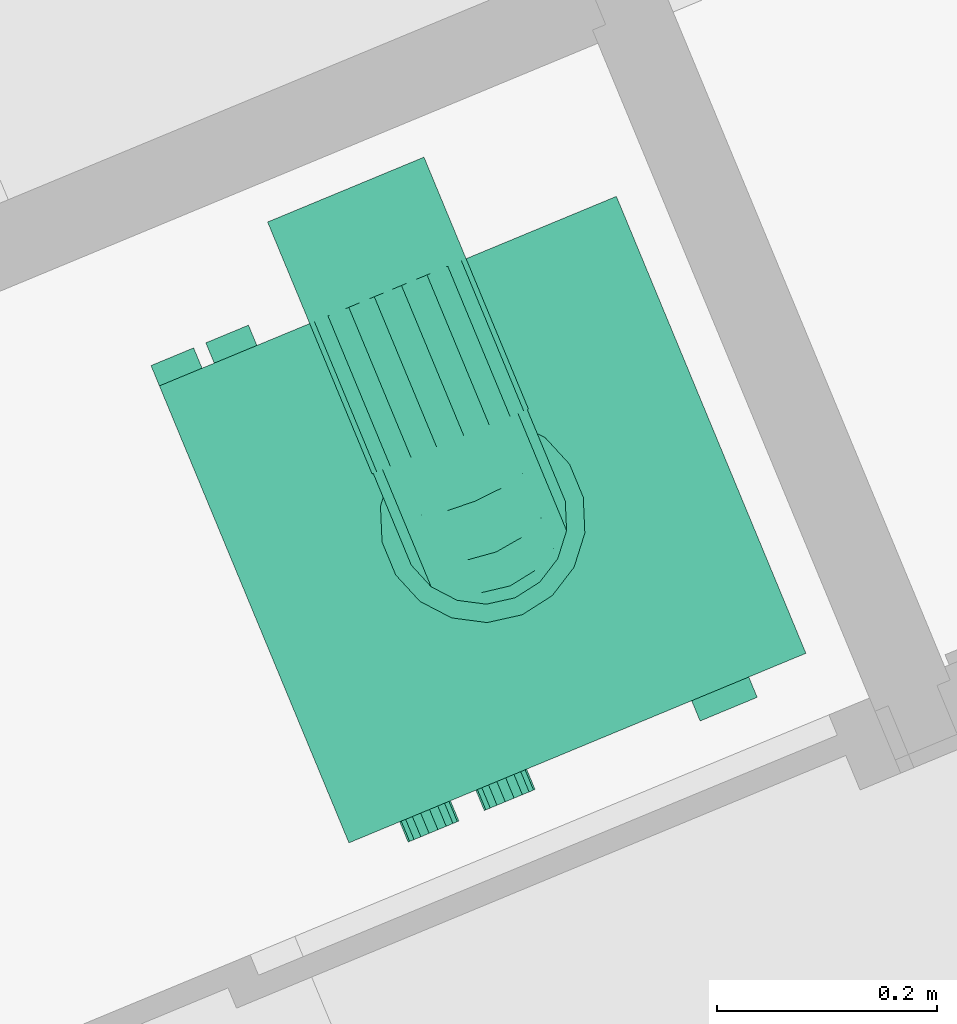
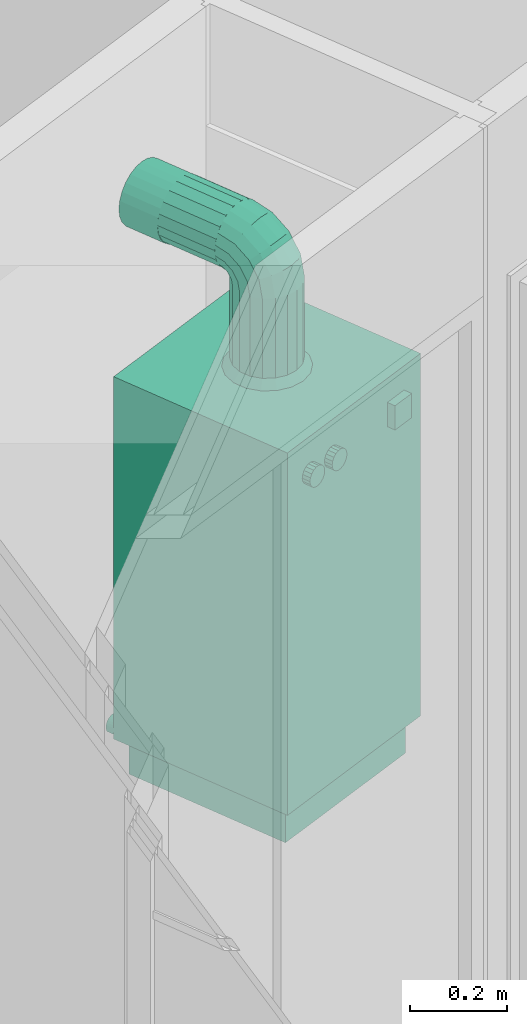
# One storey, part 65 of 91: 1 energy conversion device.
"""IFC2X3 building model written with IfcOpenShell, lengths in metres."""

from ifc_helpers import new_model, entity, si_unit, converted_unit, derived_unit, money_unit, direction, frame, origin_with_axes, place, context, subcontext, project, spatial, open_shell, faceted_brep, surface_model, source, transform, mapped, type_object, element, save


model = new_model("IFC2X3")

# Units and contexts
model_context = context("Model", 3, precision=1e-05, world=origin_with_axes(), true_north=direction((0.0, 1.0)))
body_context = subcontext(model_context, "Body", "Model", "MODEL_VIEW")
ifc_project = project(units=[si_unit("LENGTHUNIT", "METRE"), si_unit("AREAUNIT", "SQUARE_METRE"), si_unit("VOLUMEUNIT", "CUBIC_METRE"), converted_unit("PLANEANGLEUNIT", "DEGREE", entity("IfcPlaneAngleMeasure", 0.0174532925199), si_unit("PLANEANGLEUNIT", "RADIAN"), dimensions=[0, 0, 0, 0, 0, 0, 0]), si_unit("SOLIDANGLEUNIT", "STERADIAN"), money_unit("EUR"), converted_unit("TIMEUNIT", "Year", entity("IfcTimeMeasure", 31556926.0), si_unit("TIMEUNIT", "SECOND"), dimensions=[0, 0, 1, 0, 0, 0, 0]), si_unit("MASSUNIT", "GRAM", prefix="KILO"), si_unit("THERMODYNAMICTEMPERATUREUNIT", "DEGREE_CELSIUS"), si_unit("LUMINOUSINTENSITYUNIT", "LUMEN"), si_unit("ENERGYUNIT", "JOULE", prefix="MEGA"), derived_unit("THERMALCONDUCTANCEUNIT", [(si_unit("POWERUNIT", "WATT"), 1), (si_unit("LENGTHUNIT", "METRE"), -1), (si_unit("THERMODYNAMICTEMPERATUREUNIT", "KELVIN"), -1)]), derived_unit("SPECIFICHEATCAPACITYUNIT", [(si_unit("ENERGYUNIT", "JOULE"), 1), (si_unit("MASSUNIT", "GRAM", prefix="KILO"), -1), (si_unit("THERMODYNAMICTEMPERATUREUNIT", "KELVIN"), -1)]), derived_unit("MASSDENSITYUNIT", [(si_unit("MASSUNIT", "GRAM", prefix="KILO"), 1), (si_unit("VOLUMEUNIT", "CUBIC_METRE"), -1)])], contexts=[model_context])

# Site, building, storey
site_placement = place(None, origin_with_axes())
site = spatial("IfcSite", under=ifc_project, at=site_placement, Name="Site", CompositionType="ELEMENT")
building_placement = place(site_placement, origin_with_axes())
building = spatial("IfcBuilding", under=site, at=building_placement, Name="Bâtiment", CompositionType="ELEMENT")
storey_placement = place(building_placement, frame((0.0, 0.0, 5.44), z_axis=(0.0, 0.0, 1.0), x_axis=(1.0, 0.0, 0.0)))
storey = spatial("IfcBuildingStorey", under=building, at=storey_placement, Name="R+2", CompositionType="ELEMENT", Elevation=5.44)

# Energy conversion device
boiler_type = type_object("IfcBoilerType", Name="Chaudière à gaz 23", PredefinedType="WATER")
shared_shape = source(origin_with_axes(), body_context, "Body", "SurfaceModel", [
    surface_model("IfcShellBasedSurfaceModel", [(-0.2, 0.45, 0.090909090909), (-0.2, 0.47, 0.090909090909), (-0.194564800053, 0.47, 0.0916246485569), (-0.194564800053, 0.45, 0.0916246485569), (-0.205435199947, 0.45, 0.0916246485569), (-0.205435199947, 0.47, 0.0916246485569), (-0.1895, 0.47, 0.0937225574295), (-0.1895, 0.45, 0.0937225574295), (-0.2105, 0.45, 0.0937225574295), (-0.2105, 0.47, 0.0937225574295), (-0.185150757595, 0.47, 0.0970598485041), (-0.185150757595, 0.45, 0.0970598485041), (-0.214849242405, 0.45, 0.0970598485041), (-0.214849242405, 0.47, 0.0970598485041), (-0.181813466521, 0.47, 0.101409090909), (-0.181813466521, 0.45, 0.101409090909), (-0.218186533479, 0.45, 0.101409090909), (-0.218186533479, 0.47, 0.101409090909), (-0.179715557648, 0.47, 0.106473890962), (-0.179715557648, 0.45, 0.106473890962), (-0.220284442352, 0.45, 0.106473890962), (-0.220284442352, 0.47, 0.106473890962), (-0.179, 0.47, 0.111909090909), (-0.179, 0.45, 0.111909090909), (-0.221, 0.45, 0.111909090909), (-0.221, 0.47, 0.111909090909), (-0.179715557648, 0.47, 0.117344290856), (-0.179715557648, 0.45, 0.117344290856), (-0.220284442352, 0.45, 0.117344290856), (-0.220284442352, 0.47, 0.117344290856), (-0.181813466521, 0.47, 0.122409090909), (-0.181813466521, 0.45, 0.122409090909), (-0.218186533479, 0.45, 0.122409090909), (-0.218186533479, 0.47, 0.122409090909), (-0.185150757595, 0.47, 0.126758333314), (-0.185150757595, 0.45, 0.126758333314), (-0.214849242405, 0.45, 0.126758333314), (-0.214849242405, 0.47, 0.126758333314), (-0.1895, 0.47, 0.130095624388), (-0.1895, 0.45, 0.130095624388), (-0.2105, 0.45, 0.130095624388), (-0.2105, 0.47, 0.130095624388), (-0.194564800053, 0.47, 0.132193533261), (-0.194564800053, 0.45, 0.132193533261), (-0.205435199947, 0.45, 0.132193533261), (-0.205435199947, 0.47, 0.132193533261), (-0.2, 0.47, 0.132909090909), (-0.2, 0.45, 0.132909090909)], [open_shell([[[0, 1, 2, 3]], [[4, 5, 1, 0]], [[3, 2, 6, 7]], [[8, 9, 5, 4]], [[7, 6, 10, 11]], [[12, 13, 9, 8]], [[11, 10, 14, 15]], [[16, 17, 13, 12]], [[15, 14, 18, 19]], [[20, 21, 17, 16]], [[19, 18, 22, 23]], [[24, 25, 21, 20]], [[23, 22, 26, 27]], [[28, 29, 25, 24]], [[27, 26, 30, 31]], [[32, 33, 29, 28]], [[31, 30, 34, 35]], [[36, 37, 33, 32]], [[35, 34, 38, 39]], [[40, 41, 37, 36]], [[39, 38, 42, 43]], [[44, 45, 41, 40]], [[43, 42, 46, 47]], [[47, 46, 45, 44]]])]),
    surface_model("IfcShellBasedSurfaceModel", [(-0.375, 0.45, 0.090909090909), (-0.375, 0.47, 0.090909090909), (-0.369564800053, 0.47, 0.0916246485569), (-0.369564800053, 0.45, 0.0916246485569), (-0.380435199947, 0.45, 0.0916246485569), (-0.380435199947, 0.47, 0.0916246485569), (-0.3645, 0.47, 0.0937225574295), (-0.3645, 0.45, 0.0937225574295), (-0.3855, 0.45, 0.0937225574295), (-0.3855, 0.47, 0.0937225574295), (-0.360150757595, 0.47, 0.0970598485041), (-0.360150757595, 0.45, 0.0970598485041), (-0.389849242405, 0.45, 0.0970598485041), (-0.389849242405, 0.47, 0.0970598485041), (-0.356813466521, 0.47, 0.101409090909), (-0.356813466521, 0.45, 0.101409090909), (-0.393186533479, 0.45, 0.101409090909), (-0.393186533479, 0.47, 0.101409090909), (-0.354715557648, 0.47, 0.106473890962), (-0.354715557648, 0.45, 0.106473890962), (-0.395284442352, 0.45, 0.106473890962), (-0.395284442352, 0.47, 0.106473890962), (-0.354, 0.47, 0.111909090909), (-0.354, 0.45, 0.111909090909), (-0.396, 0.45, 0.111909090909), (-0.396, 0.47, 0.111909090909), (-0.354715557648, 0.47, 0.117344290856), (-0.354715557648, 0.45, 0.117344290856), (-0.395284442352, 0.45, 0.117344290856), (-0.395284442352, 0.47, 0.117344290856), (-0.356813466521, 0.47, 0.122409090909), (-0.356813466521, 0.45, 0.122409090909), (-0.393186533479, 0.45, 0.122409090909), (-0.393186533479, 0.47, 0.122409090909), (-0.360150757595, 0.47, 0.126758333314), (-0.360150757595, 0.45, 0.126758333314), (-0.389849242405, 0.45, 0.126758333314), (-0.389849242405, 0.47, 0.126758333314), (-0.3645, 0.47, 0.130095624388), (-0.3645, 0.45, 0.130095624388), (-0.3855, 0.45, 0.130095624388), (-0.3855, 0.47, 0.130095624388), (-0.369564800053, 0.47, 0.132193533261), (-0.369564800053, 0.45, 0.132193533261), (-0.380435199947, 0.45, 0.132193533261), (-0.380435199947, 0.47, 0.132193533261), (-0.375, 0.47, 0.132909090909), (-0.375, 0.45, 0.132909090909)], [open_shell([[[0, 1, 2, 3]], [[4, 5, 1, 0]], [[3, 2, 6, 7]], [[8, 9, 5, 4]], [[7, 6, 10, 11]], [[12, 13, 9, 8]], [[11, 10, 14, 15]], [[16, 17, 13, 12]], [[15, 14, 18, 19]], [[20, 21, 17, 16]], [[19, 18, 22, 23]], [[24, 25, 21, 20]], [[23, 22, 26, 27]], [[28, 29, 25, 24]], [[27, 26, 30, 31]], [[32, 33, 29, 28]], [[31, 30, 34, 35]], [[36, 37, 33, 32]], [[35, 34, 38, 39]], [[40, 41, 37, 36]], [[39, 38, 42, 43]], [[44, 45, 41, 40]], [[43, 42, 46, 47]], [[47, 46, 45, 44]]])]),
    surface_model("IfcShellBasedSurfaceModel", [(-0.429, 0.45, 0.090909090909), (-0.429, 0.47, 0.090909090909), (-0.423564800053, 0.47, 0.0916246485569), (-0.423564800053, 0.45, 0.0916246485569), (-0.434435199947, 0.45, 0.0916246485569), (-0.434435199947, 0.47, 0.0916246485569), (-0.4185, 0.47, 0.0937225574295), (-0.4185, 0.45, 0.0937225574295), (-0.4395, 0.45, 0.0937225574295), (-0.4395, 0.47, 0.0937225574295), (-0.414150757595, 0.47, 0.0970598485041), (-0.414150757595, 0.45, 0.0970598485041), (-0.443849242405, 0.45, 0.0970598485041), (-0.443849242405, 0.47, 0.0970598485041), (-0.410813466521, 0.47, 0.101409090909), (-0.410813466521, 0.45, 0.101409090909), (-0.447186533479, 0.45, 0.101409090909), (-0.447186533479, 0.47, 0.101409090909), (-0.408715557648, 0.47, 0.106473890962), (-0.408715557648, 0.45, 0.106473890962), (-0.449284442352, 0.45, 0.106473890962), (-0.449284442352, 0.47, 0.106473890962), (-0.408, 0.47, 0.111909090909), (-0.408, 0.45, 0.111909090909), (-0.45, 0.45, 0.111909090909), (-0.45, 0.47, 0.111909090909), (-0.408715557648, 0.47, 0.117344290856), (-0.408715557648, 0.45, 0.117344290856), (-0.449284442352, 0.45, 0.117344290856), (-0.449284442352, 0.47, 0.117344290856), (-0.410813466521, 0.47, 0.122409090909), (-0.410813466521, 0.45, 0.122409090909), (-0.447186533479, 0.45, 0.122409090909), (-0.447186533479, 0.47, 0.122409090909), (-0.414150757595, 0.47, 0.126758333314), (-0.414150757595, 0.45, 0.126758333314), (-0.443849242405, 0.45, 0.126758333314), (-0.443849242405, 0.47, 0.126758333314), (-0.4185, 0.47, 0.130095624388), (-0.4185, 0.45, 0.130095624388), (-0.4395, 0.45, 0.130095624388), (-0.4395, 0.47, 0.130095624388), (-0.423564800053, 0.47, 0.132193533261), (-0.423564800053, 0.45, 0.132193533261), (-0.434435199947, 0.45, 0.132193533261), (-0.434435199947, 0.47, 0.132193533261), (-0.429, 0.47, 0.132909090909), (-0.429, 0.45, 0.132909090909)], [open_shell([[[0, 1, 2, 3]], [[4, 5, 1, 0]], [[3, 2, 6, 7]], [[8, 9, 5, 4]], [[7, 6, 10, 11]], [[12, 13, 9, 8]], [[11, 10, 14, 15]], [[16, 17, 13, 12]], [[15, 14, 18, 19]], [[20, 21, 17, 16]], [[19, 18, 22, 23]], [[24, 25, 21, 20]], [[23, 22, 26, 27]], [[28, 29, 25, 24]], [[27, 26, 30, 31]], [[32, 33, 29, 28]], [[31, 30, 34, 35]], [[36, 37, 33, 32]], [[35, 34, 38, 39]], [[40, 41, 37, 36]], [[39, 38, 42, 43]], [[44, 45, 41, 40]], [[43, 42, 46, 47]], [[47, 46, 45, 44]]])]),
    surface_model("IfcShellBasedSurfaceModel", [(-0.225, 0.45, 1.218), (-0.225, 0.55, 1.218), (-0.205070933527, 0.55, 1.22062371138), (-0.205070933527, 0.45, 1.22062371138), (-0.244929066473, 0.45, 1.22062371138), (-0.244929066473, 0.55, 1.22062371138), (-0.1865, 0.55, 1.22831604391), (-0.1865, 0.45, 1.22831604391), (-0.2635, 0.45, 1.22831604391), (-0.2635, 0.55, 1.22831604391), (-0.170552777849, 0.55, 1.24055277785), (-0.170552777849, 0.45, 1.24055277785), (-0.279447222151, 0.45, 1.24055277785), (-0.279447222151, 0.55, 1.24055277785), (-0.158316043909, 0.55, 1.2565), (-0.158316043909, 0.45, 1.2565), (-0.291683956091, 0.45, 1.2565), (-0.291683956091, 0.55, 1.2565), (-0.150623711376, 0.55, 1.27507093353), (-0.150623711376, 0.45, 1.27507093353), (-0.299376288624, 0.45, 1.27507093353), (-0.299376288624, 0.55, 1.27507093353), (-0.148, 0.55, 1.295), (-0.148, 0.45, 1.295), (-0.302, 0.45, 1.295), (-0.302, 0.55, 1.295), (-0.150623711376, 0.55, 1.31492906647), (-0.150623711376, 0.45, 1.31492906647), (-0.299376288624, 0.45, 1.31492906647), (-0.299376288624, 0.55, 1.31492906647), (-0.158316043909, 0.55, 1.3335), (-0.158316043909, 0.45, 1.3335), (-0.291683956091, 0.45, 1.3335), (-0.291683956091, 0.55, 1.3335), (-0.170552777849, 0.55, 1.34944722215), (-0.170552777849, 0.45, 1.34944722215), (-0.279447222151, 0.45, 1.34944722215), (-0.279447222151, 0.55, 1.34944722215), (-0.1865, 0.55, 1.36168395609), (-0.1865, 0.45, 1.36168395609), (-0.2635, 0.45, 1.36168395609), (-0.2635, 0.55, 1.36168395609), (-0.205070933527, 0.55, 1.36937628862), (-0.205070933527, 0.45, 1.36937628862), (-0.244929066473, 0.45, 1.36937628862), (-0.244929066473, 0.55, 1.36937628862), (-0.225, 0.55, 1.372), (-0.225, 0.45, 1.372)], [open_shell([[[0, 1, 2, 3]], [[4, 5, 1, 0]], [[3, 2, 6, 7]], [[8, 9, 5, 4]], [[7, 6, 10, 11]], [[12, 13, 9, 8]], [[11, 10, 14, 15]], [[16, 17, 13, 12]], [[15, 14, 18, 19]], [[20, 21, 17, 16]], [[19, 18, 22, 23]], [[24, 25, 21, 20]], [[23, 22, 26, 27]], [[28, 29, 25, 24]], [[27, 26, 30, 31]], [[32, 33, 29, 28]], [[31, 30, 34, 35]], [[36, 37, 33, 32]], [[35, 34, 38, 39]], [[40, 41, 37, 36]], [[39, 38, 42, 43]], [[44, 45, 41, 40]], [[43, 42, 46, 47]], [[47, 46, 45, 44]]])]),
    faceted_brep([(-0.4275, 0.0225, 0.0), (-0.4275, 0.4275, 0.0), (-0.0225, 0.4275, 0.0), (-0.0225, 0.0225, 0.0), (-0.4275, 0.0225, 0.0909090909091), (-0.4275, 0.4275, 0.0909090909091), (-0.0225, 0.4275, 0.0909090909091), (-0.0225, 0.0225, 0.0909090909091)], [[[0, 1, 2, 3]], [[0, 4, 5, 1]], [[1, 5, 6, 2]], [[2, 6, 7, 3]], [[3, 7, 4, 0]], [[7, 6, 5, 4]]]),
    faceted_brep([(0.0, 0.45, 0.0909090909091), (-0.45, 0.45, 0.0909090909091), (-0.45, 0.45, 1.0), (0.0, 0.45, 1.0), (0.0, 0.0, 0.0909090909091), (-0.45, 0.0, 0.0909090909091), (-0.45, 0.0, 0.818181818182), (-0.45, 0.0225, 0.818181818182), (-0.45, 0.0225, 1.0), (0.0, 0.0225, 1.0), (0.0, 0.0225, 0.818181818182), (0.0, 0.0, 0.818181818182)], [[[0, 1, 2, 3]], [[4, 5, 1, 0]], [[1, 5, 6, 7, 8, 2]], [[3, 2, 8, 9]], [[0, 3, 9, 10, 11, 4]], [[11, 6, 5, 4]], [[10, 7, 6, 11]], [[9, 8, 7, 10]]]),
    faceted_brep([(-0.45, 0.0, 0.818181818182), (-0.45, 0.0225, 0.818181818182), (0.0, 0.0225, 0.818181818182), (0.0, 0.0, 0.818181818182), (-0.45, 0.0, 1.0), (-0.45, 0.0225, 1.0), (0.0, 0.0225, 1.0), (0.0, 0.0, 1.0)], [[[0, 1, 2, 3]], [[0, 4, 5, 1]], [[1, 5, 6, 2]], [[2, 6, 7, 3]], [[3, 7, 4, 0]], [[7, 6, 5, 4]]]),
    faceted_brep([(-0.32349231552, 0.0, 0.900540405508), (-0.325, 0.0, 0.909090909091), (-0.32349231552, 0.0, 0.917641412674), (-0.319151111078, 0.0, 0.925160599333), (-0.3125, 0.0, 0.930741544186), (-0.304341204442, 0.0, 0.933711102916), (-0.295658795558, 0.0, 0.933711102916), (-0.2875, 0.0, 0.930741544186), (-0.280848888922, 0.0, 0.925160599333), (-0.27650768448, 0.0, 0.917641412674), (-0.275, 0.0, 0.909090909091), (-0.27650768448, 0.0, 0.900540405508), (-0.280848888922, 0.0, 0.893021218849), (-0.2875, 0.0, 0.887440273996), (-0.295658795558, 0.0, 0.884470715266), (-0.304341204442, 0.0, 0.884470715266), (-0.3125, 0.0, 0.887440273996), (-0.319151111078, 0.0, 0.893021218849), (-0.32349231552, -0.02, 0.900540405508), (-0.325, -0.02, 0.909090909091), (-0.32349231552, -0.02, 0.917641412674), (-0.319151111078, -0.02, 0.925160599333), (-0.3125, -0.02, 0.930741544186), (-0.304341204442, -0.02, 0.933711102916), (-0.295658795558, -0.02, 0.933711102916), (-0.2875, -0.02, 0.930741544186), (-0.280848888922, -0.02, 0.925160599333), (-0.27650768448, -0.02, 0.917641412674), (-0.275, -0.02, 0.909090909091), (-0.27650768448, -0.02, 0.900540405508), (-0.280848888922, -0.02, 0.893021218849), (-0.2875, -0.02, 0.887440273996), (-0.295658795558, -0.02, 0.884470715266), (-0.304341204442, -0.02, 0.884470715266), (-0.3125, -0.02, 0.887440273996), (-0.319151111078, -0.02, 0.893021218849)], [[[0, 1, 2, 3, 4, 5, 6, 7, 8, 9, 10, 11, 12, 13, 14, 15, 16, 17]], [[0, 18, 19, 1]], [[1, 19, 20, 2]], [[2, 20, 21, 3]], [[3, 21, 22, 4]], [[4, 22, 23, 5]], [[5, 23, 24, 6]], [[6, 24, 25, 7]], [[7, 25, 26, 8]], [[8, 26, 27, 9]], [[9, 27, 28, 10]], [[10, 28, 29, 11]], [[11, 29, 30, 12]], [[12, 30, 31, 13]], [[13, 31, 32, 14]], [[14, 32, 33, 15]], [[15, 33, 34, 16]], [[16, 34, 35, 17]], [[17, 35, 18, 0]], [[18, 35, 34, 33, 32, 31, 30, 29, 28, 27, 26, 25, 24, 23, 22, 21, 20, 19]]]),
    faceted_brep([(-0.39849231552, 0.0, 0.900540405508), (-0.4, 0.0, 0.909090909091), (-0.39849231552, 0.0, 0.917641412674), (-0.394151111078, 0.0, 0.925160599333), (-0.3875, 0.0, 0.930741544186), (-0.379341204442, 0.0, 0.933711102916), (-0.370658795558, 0.0, 0.933711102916), (-0.3625, 0.0, 0.930741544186), (-0.355848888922, 0.0, 0.925160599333), (-0.35150768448, 0.0, 0.917641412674), (-0.35, 0.0, 0.909090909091), (-0.35150768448, 0.0, 0.900540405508), (-0.355848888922, 0.0, 0.893021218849), (-0.3625, 0.0, 0.887440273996), (-0.370658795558, 0.0, 0.884470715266), (-0.379341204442, 0.0, 0.884470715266), (-0.3875, 0.0, 0.887440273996), (-0.394151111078, 0.0, 0.893021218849), (-0.39849231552, -0.02, 0.900540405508), (-0.4, -0.02, 0.909090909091), (-0.39849231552, -0.02, 0.917641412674), (-0.394151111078, -0.02, 0.925160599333), (-0.3875, -0.02, 0.930741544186), (-0.379341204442, -0.02, 0.933711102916), (-0.370658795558, -0.02, 0.933711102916), (-0.3625, -0.02, 0.930741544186), (-0.355848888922, -0.02, 0.925160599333), (-0.35150768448, -0.02, 0.917641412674), (-0.35, -0.02, 0.909090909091), (-0.35150768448, -0.02, 0.900540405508), (-0.355848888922, -0.02, 0.893021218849), (-0.3625, -0.02, 0.887440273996), (-0.370658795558, -0.02, 0.884470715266), (-0.379341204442, -0.02, 0.884470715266), (-0.3875, -0.02, 0.887440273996), (-0.394151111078, -0.02, 0.893021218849)], [[[0, 1, 2, 3, 4, 5, 6, 7, 8, 9, 10, 11, 12, 13, 14, 15, 16, 17]], [[0, 18, 19, 1]], [[1, 19, 20, 2]], [[2, 20, 21, 3]], [[3, 21, 22, 4]], [[4, 22, 23, 5]], [[5, 23, 24, 6]], [[6, 24, 25, 7]], [[7, 25, 26, 8]], [[8, 26, 27, 9]], [[9, 27, 28, 10]], [[10, 28, 29, 11]], [[11, 29, 30, 12]], [[12, 30, 31, 13]], [[13, 31, 32, 14]], [[14, 32, 33, 15]], [[15, 33, 34, 16]], [[16, 34, 35, 17]], [[17, 35, 18, 0]], [[18, 35, 34, 33, 32, 31, 30, 29, 28, 27, 26, 25, 24, 23, 22, 21, 20, 19]]]),
    faceted_brep([(-0.1125, 0.0, 0.878787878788), (-0.1125, 0.0, 0.939393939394), (-0.05625, 0.0, 0.939393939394), (-0.05625, 0.0, 0.878787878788), (-0.1125, -0.02, 0.878787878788), (-0.1125, -0.02, 0.939393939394), (-0.05625, -0.02, 0.939393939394), (-0.05625, -0.02, 0.878787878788)], [[[0, 1, 2, 3]], [[0, 4, 5, 1]], [[1, 5, 6, 2]], [[2, 6, 7, 3]], [[3, 7, 4, 0]], [[7, 6, 5, 4]]]),
    surface_model("IfcShellBasedSurfaceModel", [(-0.198664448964, 0.297356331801, 1.22), (-0.198664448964, 0.297356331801, 1.02), (-0.225, 0.302, 1.02), (-0.225, 0.302, 1.22), (-0.175505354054, 0.28398542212, 1.22), (-0.175505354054, 0.28398542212, 1.02), (-0.192935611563, 0.313096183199, 1.0), (-0.225, 0.31875, 1.0), (-0.251335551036, 0.297356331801, 1.02), (-0.251335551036, 0.297356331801, 1.22), (-0.158316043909, 0.2635, 1.22), (-0.158316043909, 0.2635, 1.02), (-0.164738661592, 0.296816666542, 1.0), (-0.257064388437, 0.313096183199, 1.0), (-0.274494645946, 0.28398542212, 1.02), (-0.274494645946, 0.28398542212, 1.22), (-0.149169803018, 0.23837090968, 1.22), (-0.149169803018, 0.23837090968, 1.02), (-0.143810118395, 0.271875, 1.0), (-0.285261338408, 0.296816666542, 1.0), (-0.291683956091, 0.2635, 1.02), (-0.291683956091, 0.2635, 1.22), (-0.149169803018, 0.21162909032, 1.22), (-0.149169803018, 0.21162909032, 1.02), (-0.132674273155, 0.241279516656, 1.0), (-0.306189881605, 0.271875, 1.0), (-0.300830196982, 0.23837090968, 1.02), (-0.300830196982, 0.23837090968, 1.22), (-0.158316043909, 0.1865, 1.22), (-0.158316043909, 0.1865, 1.02), (-0.132674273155, 0.208720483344, 1.0), (-0.317325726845, 0.241279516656, 1.0), (-0.300830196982, 0.21162909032, 1.02), (-0.300830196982, 0.21162909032, 1.22), (-0.175505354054, 0.16601457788, 1.22), (-0.175505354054, 0.16601457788, 1.02), (-0.143810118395, 0.178125, 1.0), (-0.317325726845, 0.208720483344, 1.0), (-0.291683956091, 0.1865, 1.02), (-0.291683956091, 0.1865, 1.22), (-0.198664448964, 0.152643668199, 1.22), (-0.198664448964, 0.152643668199, 1.02), (-0.164738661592, 0.153183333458, 1.0), (-0.306189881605, 0.178125, 1.0), (-0.274494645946, 0.16601457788, 1.02), (-0.274494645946, 0.16601457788, 1.22), (-0.225, 0.148, 1.22), (-0.225, 0.148, 1.02), (-0.192935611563, 0.136903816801, 1.0), (-0.285261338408, 0.153183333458, 1.0), (-0.251335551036, 0.152643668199, 1.02), (-0.251335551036, 0.152643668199, 1.22), (-0.225, 0.13125, 1.0), (-0.257064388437, 0.136903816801, 1.0)], [open_shell([[[0, 1, 2, 3]], [[4, 5, 1, 0]], [[1, 6, 7, 2]], [[3, 2, 8, 9]], [[10, 11, 5, 4]], [[5, 12, 6, 1]], [[2, 7, 13, 8]], [[9, 8, 14, 15]], [[16, 17, 11, 10]], [[11, 18, 12, 5]], [[8, 13, 19, 14]], [[15, 14, 20, 21]], [[22, 23, 17, 16]], [[17, 24, 18, 11]], [[14, 19, 25, 20]], [[21, 20, 26, 27]], [[28, 29, 23, 22]], [[23, 30, 24, 17]], [[20, 25, 31, 26]], [[27, 26, 32, 33]], [[34, 35, 29, 28]], [[29, 36, 30, 23]], [[26, 31, 37, 32]], [[33, 32, 38, 39]], [[40, 41, 35, 34]], [[35, 42, 36, 29]], [[32, 37, 43, 38]], [[39, 38, 44, 45]], [[46, 47, 41, 40]], [[41, 48, 42, 35]], [[38, 43, 49, 44]], [[45, 44, 50, 51]], [[51, 50, 47, 46]], [[47, 52, 48, 41]], [[44, 49, 53, 50]], [[50, 53, 52, 47]]])]),
    faceted_brep([(-0.300830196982, 0.218508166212, 1.2545834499), (-0.300830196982, 0.21162909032, 1.22), (-0.291683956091, 0.1865, 1.22), (-0.291683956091, 0.195291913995, 1.26419993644), (-0.300830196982, 0.243214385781, 1.24434979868), (-0.300830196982, 0.23837090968, 1.22), (-0.291683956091, 0.2635, 1.22), (-0.274494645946, 0.28398542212, 1.22), (-0.251335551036, 0.297356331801, 1.22), (-0.225, 0.302, 1.22), (-0.198664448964, 0.297356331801, 1.22), (-0.175505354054, 0.28398542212, 1.22), (-0.158316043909, 0.2635, 1.22), (-0.149169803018, 0.23837090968, 1.22), (-0.149169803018, 0.21162909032, 1.22), (-0.158316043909, 0.1865, 1.22), (-0.175505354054, 0.16601457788, 1.22), (-0.198664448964, 0.152643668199, 1.22), (-0.225, 0.148, 1.22), (-0.251335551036, 0.152643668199, 1.22), (-0.274494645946, 0.16601457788, 1.22), (-0.274494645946, 0.176365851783, 1.27203936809), (-0.300830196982, 0.238098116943, 1.28390188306), (-0.291683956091, 0.220329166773, 1.30167083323), (-0.300830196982, 0.257007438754, 1.26499256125), (-0.291683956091, 0.266430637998, 1.23473331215), (-0.274494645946, 0.28535670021, 1.2268938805), (-0.251335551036, 0.297709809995, 1.22177705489), (-0.198664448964, 0.297709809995, 1.22177705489), (-0.175505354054, 0.28535670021, 1.2268938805), (-0.158316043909, 0.266430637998, 1.23473331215), (-0.149169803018, 0.243214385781, 1.24434979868), (-0.149169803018, 0.218508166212, 1.2545834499), (-0.158316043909, 0.195291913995, 1.26419993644), (-0.175505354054, 0.176365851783, 1.27203936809), (-0.198664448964, 0.164012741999, 1.2771561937), (-0.225, 0.159722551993, 1.27893324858), (-0.251335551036, 0.164012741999, 1.2771561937), (-0.274494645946, 0.205843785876, 1.31615621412), (-0.291683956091, 0.257800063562, 1.32670808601), (-0.300830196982, 0.267416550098, 1.30349183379), (-0.300830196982, 0.277650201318, 1.27878561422), (-0.291683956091, 0.274776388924, 1.24722361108), (-0.274494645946, 0.289261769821, 1.23273823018), (-0.251335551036, 0.298716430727, 1.22328356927), (-0.198664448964, 0.298716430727, 1.22328356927), (-0.175505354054, 0.289261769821, 1.23273823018), (-0.158316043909, 0.274776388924, 1.24722361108), (-0.149169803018, 0.257007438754, 1.26499256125), (-0.149169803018, 0.238098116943, 1.28390188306), (-0.158316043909, 0.220329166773, 1.30167083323), (-0.175505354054, 0.205843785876, 1.31615621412), (-0.198664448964, 0.196389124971, 1.32561087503), (-0.225, 0.193105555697, 1.3288944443), (-0.251335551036, 0.196389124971, 1.32561087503), (-0.274494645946, 0.249960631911, 1.34563414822), (-0.291683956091, 0.302, 1.3355), (-0.300830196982, 0.302, 1.31037090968), (-0.300830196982, 0.302, 1.28362909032), (-0.291683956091, 0.287266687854, 1.255569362), (-0.274494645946, 0.295106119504, 1.23664329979), (-0.251335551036, 0.300222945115, 1.22429019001), (-0.198664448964, 0.300222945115, 1.22429019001), (-0.175505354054, 0.295106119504, 1.23664329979), (-0.158316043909, 0.287266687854, 1.255569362), (-0.149169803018, 0.277650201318, 1.27878561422), (-0.149169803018, 0.267416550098, 1.30349183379), (-0.158316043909, 0.257800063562, 1.32670808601), (-0.175505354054, 0.249960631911, 1.34563414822), (-0.198664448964, 0.244843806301, 1.357987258), (-0.225, 0.243066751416, 1.36227744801), (-0.251335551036, 0.244843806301, 1.357987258), (-0.274494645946, 0.302, 1.35598542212), (-0.291683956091, 0.302, 1.2585), (-0.251335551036, 0.302, 1.3693563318), (-0.225, 0.302, 1.374), (-0.198664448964, 0.302, 1.3693563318), (-0.175505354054, 0.302, 1.35598542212), (-0.158316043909, 0.302, 1.3355), (-0.149169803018, 0.302, 1.31037090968), (-0.149169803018, 0.302, 1.28362909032), (-0.158316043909, 0.302, 1.2585), (-0.175505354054, 0.302, 1.23801457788), (-0.198664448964, 0.302, 1.2246436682), (-0.251335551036, 0.302, 1.2246436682), (-0.274494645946, 0.302, 1.23801457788)], [[[0, 1, 2, 3]], [[1, 0, 4, 5]], [[2, 1, 5, 6, 7, 8, 9, 10, 11, 12, 13, 14, 15, 16, 17, 18, 19, 20]], [[3, 2, 20, 21]], [[22, 0, 3, 23]], [[0, 22, 24, 4]], [[6, 5, 4, 25]], [[26, 7, 6, 25]], [[7, 26, 27, 8]], [[8, 27, 9]], [[28, 10, 9]], [[10, 28, 29, 11]], [[30, 12, 11, 29]], [[12, 30, 31, 13]], [[32, 14, 13, 31]], [[15, 14, 32, 33]], [[34, 16, 15, 33]], [[17, 16, 34, 35]], [[36, 18, 17, 35]], [[19, 18, 36, 37]], [[21, 20, 19, 37]], [[23, 3, 21, 38]], [[22, 23, 39, 40]], [[24, 22, 40, 41]], [[4, 24, 42, 25]], [[43, 26, 25, 42]], [[26, 43, 44, 27]], [[27, 44, 9]], [[45, 28, 9]], [[28, 45, 46, 29]], [[29, 46, 47, 30]], [[31, 30, 47, 48]], [[49, 32, 31, 48]], [[32, 49, 50, 33]], [[51, 34, 33, 50]], [[35, 34, 51, 52]], [[53, 36, 35, 52]], [[54, 37, 36, 53]], [[38, 21, 37, 54]], [[39, 23, 38, 55]], [[40, 39, 56, 57]], [[41, 40, 57, 58]], [[59, 42, 24, 41]], [[42, 59, 60, 43]], [[43, 60, 61, 44]], [[44, 61, 9]], [[62, 45, 9]], [[45, 62, 63, 46]], [[46, 63, 64, 47]], [[47, 64, 65, 48]], [[66, 49, 48, 65]], [[50, 49, 66, 67]], [[68, 51, 50, 67]], [[52, 51, 68, 69]], [[53, 52, 69, 70]], [[71, 54, 53, 70]], [[55, 38, 54, 71]], [[56, 39, 55, 72]], [[73, 58, 57, 56, 72, 74, 75, 76, 77, 78, 79, 80, 81, 82, 83, 9, 84, 85]], [[59, 41, 58, 73]], [[59, 73, 85, 60]], [[60, 85, 84, 61]], [[61, 84, 9]], [[62, 9, 83]], [[63, 62, 83, 82]], [[63, 82, 81, 64]], [[65, 64, 81, 80]], [[66, 65, 80, 79]], [[67, 66, 79, 78]], [[77, 68, 67, 78]], [[69, 68, 77, 76]], [[75, 70, 69, 76]], [[71, 70, 75, 74]], [[72, 55, 71, 74]]]),
    surface_model("IfcShellBasedSurfaceModel", [(-0.152643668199, 0.45, 1.32333555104), (-0.152643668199, 0.302, 1.32333555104), (-0.148, 0.302, 1.297), (-0.148, 0.45, 1.297), (-0.16601457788, 0.45, 1.34649464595), (-0.16601457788, 0.302, 1.34649464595), (-0.152643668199, 0.302, 1.27066444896), (-0.152643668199, 0.45, 1.27066444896), (-0.1865, 0.45, 1.36368395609), (-0.1865, 0.302, 1.36368395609), (-0.16601457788, 0.302, 1.24750535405), (-0.16601457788, 0.45, 1.24750535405), (-0.21162909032, 0.45, 1.37283019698), (-0.21162909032, 0.302, 1.37283019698), (-0.1865, 0.302, 1.23031604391), (-0.1865, 0.45, 1.23031604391), (-0.23837090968, 0.45, 1.37283019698), (-0.23837090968, 0.302, 1.37283019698), (-0.21162909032, 0.302, 1.22116980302), (-0.21162909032, 0.45, 1.22116980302), (-0.2635, 0.45, 1.36368395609), (-0.2635, 0.302, 1.36368395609), (-0.23837090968, 0.302, 1.22116980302), (-0.23837090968, 0.45, 1.22116980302), (-0.28398542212, 0.45, 1.34649464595), (-0.28398542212, 0.302, 1.34649464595), (-0.2635, 0.302, 1.23031604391), (-0.2635, 0.45, 1.23031604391), (-0.297356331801, 0.45, 1.32333555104), (-0.297356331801, 0.302, 1.32333555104), (-0.28398542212, 0.302, 1.24750535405), (-0.28398542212, 0.45, 1.24750535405), (-0.302, 0.45, 1.297), (-0.302, 0.302, 1.297), (-0.297356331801, 0.302, 1.27066444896), (-0.297356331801, 0.45, 1.27066444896)], [open_shell([[[0, 1, 2, 3]], [[4, 5, 1, 0]], [[3, 2, 6, 7]], [[8, 9, 5, 4]], [[7, 6, 10, 11]], [[12, 13, 9, 8]], [[11, 10, 14, 15]], [[16, 17, 13, 12]], [[15, 14, 18, 19]], [[20, 21, 17, 16]], [[19, 18, 22, 23]], [[24, 25, 21, 20]], [[23, 22, 26, 27]], [[28, 29, 25, 24]], [[27, 26, 30, 31]], [[32, 33, 29, 28]], [[31, 30, 34, 35]], [[35, 34, 33, 32]]])]),
])
energy_conversion_device_placement = place(storey_placement, frame((-24.3503709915, -21.3214886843, 0.9), z_axis=(0.0, 0.0, 1.0), x_axis=(0.92370167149, 0.383112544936, 0.0)))
element("IfcEnergyConversionDevice", 1, at=energy_conversion_device_placement, inside=storey, type_object=boiler_type, Name="MOB-002", context=body_context, shape_type="MappedRepresentation", body=[
    mapped(shared_shape, transform((0.0, 0.0, 0.0))),
])

save(model, "model.ifc")
